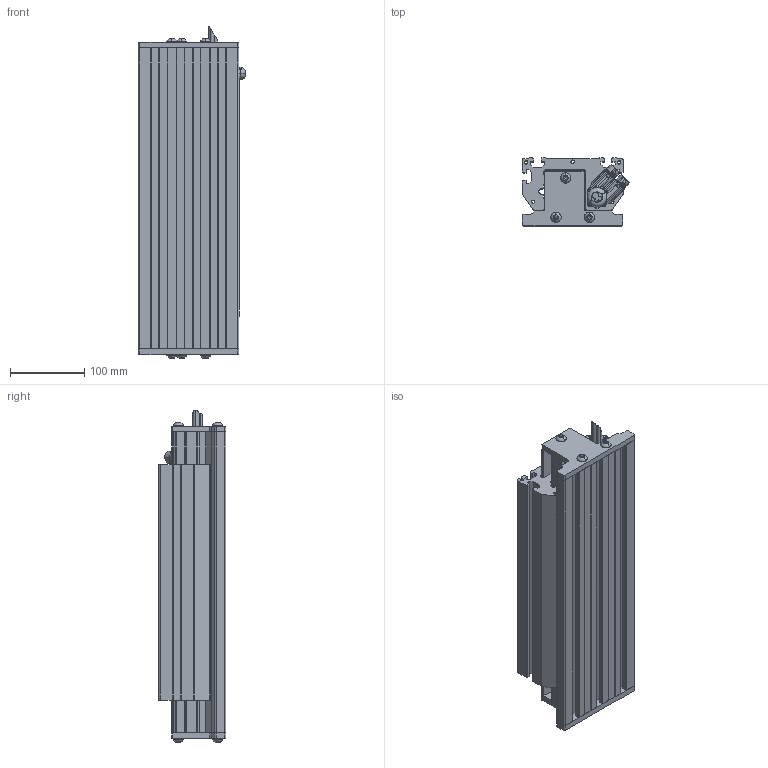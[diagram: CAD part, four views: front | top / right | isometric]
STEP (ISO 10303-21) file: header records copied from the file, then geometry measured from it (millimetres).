
FILE_DESCRIPTION (( 'STEP AP214' ), '1' );
FILE_NAME ('SINADRIVES Linear motor stage MLL20400XS-XX-1-0-ST-00-00420.STEP', '2015-07-06T10:32:23', ( 'Tecnico' ), ( '' ), 'SwSTEP 2.0', 'SolidWorks 2009', '' );
FILE_SCHEMA (( 'AUTOMOTIVE_DESIGN' ));
Length unit declared in the file: millimetre
Products named in the file (9): SINADRIVES PROFILE MLL2XXXX-0404; SINADRIVES CARRIAGE MLL20400XS-1; CARRIAGE MLL20400; CABLE; CABLE OUT; Connector power+signal Y-tec 45; SINADRIVES ENDBLOCK MLL2; SINADRIVES ENDBLOCK MLL2-2; SINADRIVES Linear motor stage MLL20400XS-XX-1-0-ST-00-00420
Assembly tree (8 placements, depth 3):
  SINADRIVES Linear motor stage MLL20400XS-XX-1-0-ST-00-00420
    SINADRIVES ENDBLOCK MLL2
    SINADRIVES ENDBLOCK MLL2-2
    SINADRIVES PROFILE MLL2XXXX-0404
    SINADRIVES CARRIAGE MLL20400XS-1
      CABLE OUT
      Connector power+signal Y-tec 45
      CARRIAGE MLL20400
      CABLE
Bounding box: 144.43 x 91 x 445.89 mm (x, y, z)
Volume: 3404003.5 mm3; surface area: 598567.6 mm2
Topology: 4 solids, 44 shells, 1019 faces, 2797 edges, 1828 vertices
Faces by surface type: plane 476, cylinder 332, bspline 85, cone 70, torus 44, sphere 12
Entity records: 42943 total; most frequent: CARTESIAN_POINT 9417, ORIENTED_EDGE 5338, DIRECTION 5276, EDGE_CURVE 2779, AXIS2_PLACEMENT_3D 1906, VERTEX_POINT 1828, VECTOR 1464, LINE 1464
